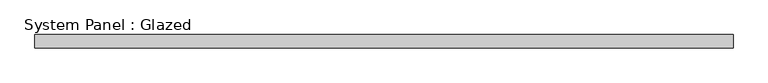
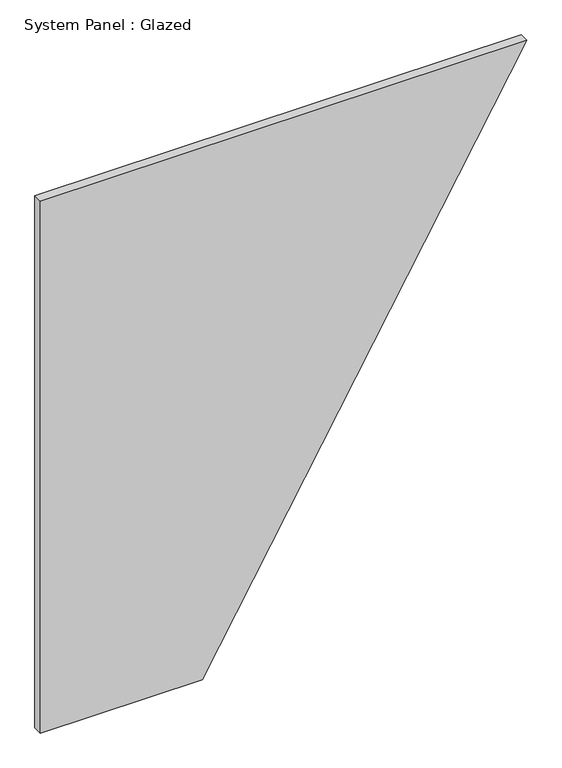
"""IFC4 building model written with IfcOpenShell, lengths in millimetres: plate geometry, System Panel : Glazed."""

import ifcopenshell
import ifcopenshell.guid

model = None  # the IFC model being written
_history = None  # IfcOwnerHistory: only IFC2X3 demands one
_inside = {}  # id of a spatial element -> (the spatial element, [elements in it])
_under = {}  # id of a project, library or spatial element -> (it, [spatial elements below it])
_declared = {}  # id of a project -> (the project, [libraries it declares])
_typed = {}  # id of a type object -> (the type object, [elements of that type])
_made_of = {}  # id of a material, layer set ... -> (it, [elements and type objects made of it])


def new_model(schema):
    """Start an empty IFC model of exactly this schema.

    Asked for "IFC4X3", IfcOpenShell would pick the latest addendum, in which some entities
    have other attributes; the version numbers below select the first issue.
    IFC2X3 requires an IfcOwnerHistory on every rooted entity: one is made here for all.
    """
    global model, _history
    if schema == "IFC4X3":
        model = ifcopenshell.file(schema_version=(4, 3, 0, 0))
    else:
        model = ifcopenshell.file(schema=schema)
    _inside.clear()
    _under.clear()
    _declared.clear()
    _typed.clear()
    _made_of.clear()
    _history = None
    if model.schema == "IFC2X3":
        org = make("IfcOrganization", Name="unknown")
        user = make(
            "IfcPersonAndOrganization",
            ThePerson=make("IfcPerson", FamilyName="unknown"),
            TheOrganization=org,
        )
        app = make(
            "IfcApplication",
            ApplicationDeveloper=org,
            Version="unknown",
            ApplicationFullName="unknown",
            ApplicationIdentifier="unknown",
        )
        _history = make(
            "IfcOwnerHistory",
            OwningUser=user,
            OwningApplication=app,
            ChangeAction="ADDED",
            CreationDate=0,
        )
    return model


def make(cls, **values):
    """One entity of the class cls with the attributes given. An attribute that is None is left unset."""
    return model.create_entity(
        cls, **{name: value for name, value in values.items() if value is not None}
    )


def rooted(cls, **values):
    """An entity with a GlobalId (a new one), such as an element, a storey or a relation."""
    return make(cls, GlobalId=ifcopenshell.guid.new(), OwnerHistory=_history, **values)


def si_unit(unit_type, name, prefix=None):
    """IfcSIUnit, for example si_unit("LENGTHUNIT", "METRE", prefix="MILLI")."""
    return make("IfcSIUnit", UnitType=unit_type, Prefix=prefix, Name=name)


def assignment(units):
    """IfcUnitAssignment: the units of a project."""
    return None if units is None else make("IfcUnitAssignment", Units=units)


def point(xyz):
    """IfcCartesianPoint."""
    return None if xyz is None else make("IfcCartesianPoint", Coordinates=xyz)


def direction(xyz):
    """IfcDirection."""
    return None if xyz is None else make("IfcDirection", DirectionRatios=xyz)


def frame(location, z_axis=None, x_axis=None):
    """IfcAxis2Placement3D, a coordinate frame: its origin and axes. An axis left out is left unset."""
    return make(
        "IfcAxis2Placement3D",
        Location=point(location),
        Axis=direction(z_axis),
        RefDirection=direction(x_axis),
    )


def origin():
    """The frame at (0, 0, 0) with its axes left unset."""
    return frame((0.0, 0.0, 0.0))


def place(relative_to, where):
    """IfcLocalPlacement: puts the frame where relative to a parent placement (None: the world)."""
    return make(
        "IfcLocalPlacement", PlacementRelTo=relative_to, RelativePlacement=where
    )


def context(
    kind, dimensions, precision=None, world=None, true_north=None, identifier=None
):
    """IfcGeometricRepresentationContext, for example the 3D "Model" context."""
    return make(
        "IfcGeometricRepresentationContext",
        ContextIdentifier=identifier,
        ContextType=kind,
        CoordinateSpaceDimension=dimensions,
        Precision=precision,
        WorldCoordinateSystem=world,
        TrueNorth=true_north,
    )


def project(units=None, contexts=None):
    """IfcProject with its units and contexts."""
    return rooted(
        "IfcProject",
        Name="project",
        RepresentationContexts=contexts,
        UnitsInContext=assignment(units),
    )


def spatial(cls, under=None, at=None, **own):
    """A site, building, storey or space (cls), placed at a placement, below another one or the project."""
    s = rooted(cls, ObjectPlacement=at, **own)
    if under is not None:
        _under.setdefault(under.id(), (under, []))[1].append(s)
    return s


def polyline(points):
    """IfcPolyline through the points."""
    return make("IfcPolyline", Points=[point(p) for p in points])


def outline(outer, holes=None, kind="AREA"):
    """IfcArbitraryClosedProfileDef: a profile drawn as a closed curve; with holes, ...WithVoids."""
    if holes is None:
        return make("IfcArbitraryClosedProfileDef", ProfileType=kind, OuterCurve=outer)
    return make(
        "IfcArbitraryProfileDefWithVoids",
        ProfileType=kind,
        OuterCurve=outer,
        InnerCurves=holes,
    )


def extrude(swept, where, along, depth):
    """IfcExtrudedAreaSolid: the profile swept, set in the frame where, extruded along a direction by depth."""
    return make(
        "IfcExtrudedAreaSolid",
        SweptArea=swept,
        Position=where,
        ExtrudedDirection=direction(along),
        Depth=depth,
    )


def shape(context_of_items, identifier, shape_type, items):
    """IfcShapeRepresentation: the items that make up one representation, for example the "Body"."""
    return make(
        "IfcShapeRepresentation",
        ContextOfItems=context_of_items,
        RepresentationIdentifier=identifier,
        RepresentationType=shape_type,
        Items=items,
    )


def source(mapping_origin, context_of_items, identifier, shape_type, items):
    """IfcRepresentationMap: a shape defined once, which mapped items show again and again."""
    return make(
        "IfcRepresentationMap",
        MappingOrigin=mapping_origin,
        MappedRepresentation=shape(context_of_items, identifier, shape_type, items),
    )


def transform(
    local_origin,
    x_axis=None,
    y_axis=None,
    z_axis=None,
    scale=None,
    scale2=None,
    scale3=None,
    uniform=True,
):
    """IfcCartesianTransformationOperator3D, or its non-uniform kind. x_axis, y_axis, z_axis: its Axis1, 2, 3."""
    if uniform:
        return make(
            "IfcCartesianTransformationOperator3D",
            Axis1=direction(x_axis),
            Axis2=direction(y_axis),
            LocalOrigin=point(local_origin),
            Scale=scale,
            Axis3=direction(z_axis),
        )
    return make(
        "IfcCartesianTransformationOperator3DnonUniform",
        Axis1=direction(x_axis),
        Axis2=direction(y_axis),
        LocalOrigin=point(local_origin),
        Scale=scale,
        Axis3=direction(z_axis),
        Scale2=scale2,
        Scale3=scale3,
    )


def mapped(mapping_source, mapping_target):
    """IfcMappedItem: shows the shape of a source again, moved by a transform."""
    return make(
        "IfcMappedItem", MappingSource=mapping_source, MappingTarget=mapping_target
    )


def made_of(thing, what):
    """Note that an element or type object is made of a material, layer set ...; save() writes the relation."""
    if what is not None:
        _made_of.setdefault(what.id(), (what, []))[1].append(thing)
    return thing


def element(
    cls,
    number,
    at=None,
    inside=None,
    cuts=None,
    type_object=None,
    material=None,
    context=None,
    identifier="Body",
    shape_type=None,
    held_by="IfcProductDefinitionShape",
    body=None,
    shapes=None,
    **own,
):
    """One element of the class cls, such as IfcWall. Its Tag is "e" and its number.

    at: its placement. inside: the storey or other place that contains it. cuts: it is an
    opening in that element (IfcRelVoidsElement). A single representation is given by context,
    identifier, shape_type and body (its items); several are given by shapes. held_by: the class
    of the entity that holds the representations. save() writes the other relations.
    """
    e = rooted(cls, Tag="e%d" % number, ObjectPlacement=at, **own)
    if body is not None:
        shapes = [shape(context, identifier, shape_type, body)]
    if shapes is not None:
        e.Representation = make(held_by, Representations=shapes)
    if inside is not None:
        _inside.setdefault(inside.id(), (inside, []))[1].append(e)
    if cuts is not None:
        rooted(
            "IfcRelVoidsElement", RelatingBuildingElement=cuts, RelatedOpeningElement=e
        )
    if type_object is not None:
        _typed.setdefault(type_object.id(), (type_object, []))[1].append(e)
    return made_of(e, material)


def aggregate(whole, parts):
    """IfcRelAggregates: a whole, such as a stair, and the parts it consists of."""
    return rooted("IfcRelAggregates", RelatingObject=whole, RelatedObjects=parts)


def save(model, path):
    """Write the relations noted so far, then the file.

    IfcRelAggregates (storeys below a building ...), IfcRelContainedInSpatialStructure (elements
    in a storey), IfcRelDefinesByType, IfcRelAssociatesMaterial and IfcRelDeclares: one each for
    every whole, place, type object, material and project.
    """
    for whole, parts in _under.values():
        aggregate(whole, parts)
    for where, things in _inside.values():
        rooted(
            "IfcRelContainedInSpatialStructure",
            RelatedElements=things,
            RelatingStructure=where,
        )
    for kind, things in _typed.values():
        rooted("IfcRelDefinesByType", RelatedObjects=things, RelatingType=kind)
    for what, things in _made_of.values():
        rooted("IfcRelAssociatesMaterial", RelatedObjects=things, RelatingMaterial=what)
    for by, libraries in _declared.values():
        rooted("IfcRelDeclares", RelatingContext=by, RelatedDefinitions=libraries)
    model.write(path)


def system_panel_glazed_9d528060(model_context):
    return source(origin(), model_context, "Body", "SweptSolid", [
        extrude(outline(polyline([(0.0, -659.2878778), (0.0, -220.5939325), (1524.0, 659.2878778), (1524.0, -659.2878778), (0.0, -659.2878778)])), frame((0.0, 19.05, 0.0), z_axis=(0.0, 1.0, 0.0), x_axis=(0.0, 0.0, 1.0)), (0.0, 0.0, 1.0), 25.4),
    ])


if __name__ == "__main__":
    model = new_model("IFC4")
    model_context = context("Model", 3, world=origin())
    ifc_project = project(units=[si_unit("LENGTHUNIT", "METRE", prefix="MILLI")], contexts=[model_context])
    site = spatial("IfcSite", under=ifc_project)
    building = spatial("IfcBuilding", under=site)
    placement = place(None, origin())
    system_panel_glazed_shape = system_panel_glazed_9d528060(model_context)
    element("IfcPlate", 1, ObjectType="System Panel : Glazed", at=placement, inside=building, context=model_context, shape_type="MappedRepresentation", body=[
        mapped(system_panel_glazed_shape, transform((0.0, 0.0, 0.0), x_axis=(1.0, 0.0, 0.0), y_axis=(0.0, 1.0, 0.0), z_axis=(0.0, 0.0, 1.0))),
    ])
    save(model, "model.ifc")
